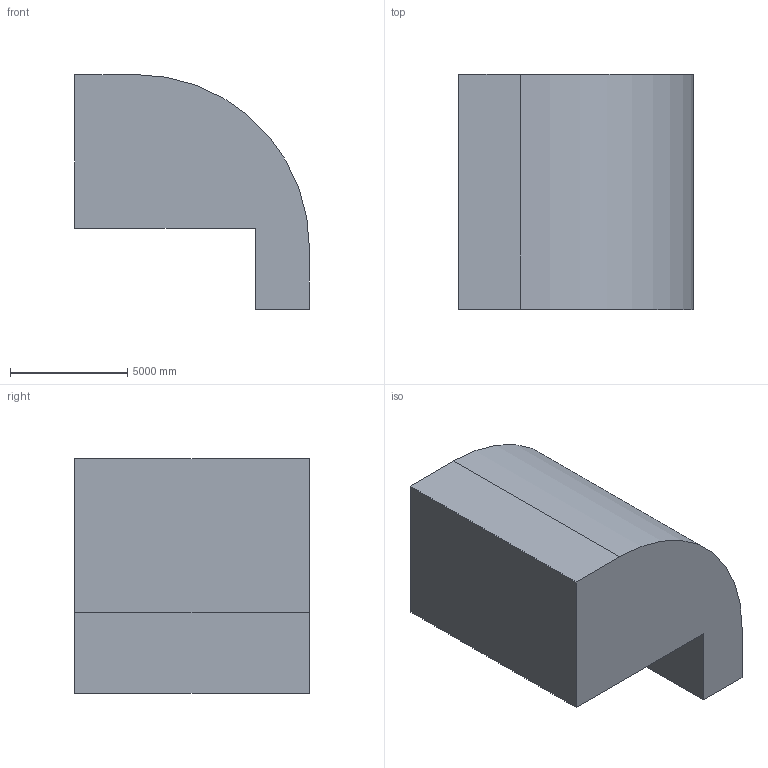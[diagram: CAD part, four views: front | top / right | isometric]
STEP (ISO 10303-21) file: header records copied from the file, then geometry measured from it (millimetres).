
FILE_DESCRIPTION (( 'STEP AP203' ), '1' );
FILE_NAME ('1037.STEP', '2022-08-18T12:30:47', ( 'user' ), ( '' ), 'SwSTEP 2.0', 'SolidWorks 2021', '' );
FILE_SCHEMA (( 'CONFIG_CONTROL_DESIGN' ));
Length unit declared in the file: centimetre
Products named in the file (1): 1037
Bounding box: 10000 x 10000 x 10000 mm (x, y, z)
Volume: 617621718415 mm3; surface area: 491910962.5 mm2
Topology: 1 solids, 1 shells, 9 faces, 21 edges, 14 vertices
Faces by surface type: plane 8, cylinder 1
Entity records: 334 total; most frequent: CARTESIAN_POINT 45, DIRECTION 43, ORIENTED_EDGE 42, EDGE_CURVE 21, LINE 19, VECTOR 19, VERTEX_POINT 14, AXIS2_PLACEMENT_3D 12
